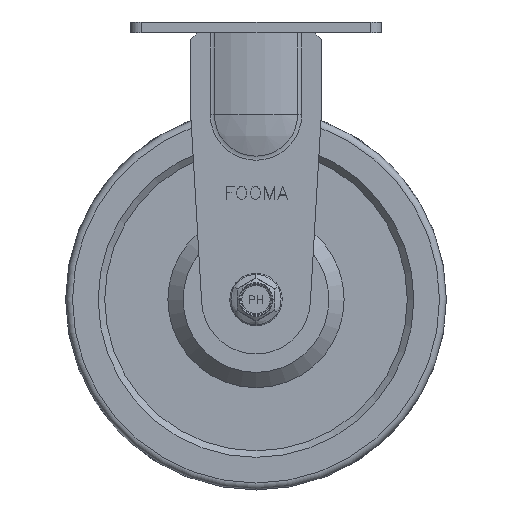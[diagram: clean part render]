
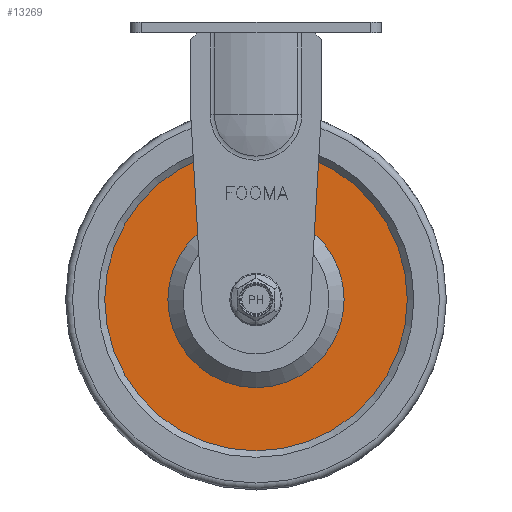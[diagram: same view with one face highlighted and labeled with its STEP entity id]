
A CAD part, front view. The second image highlights one B-rep face of the part: STEP entity #13269.
In plain terms, the highlighted planar face has unit normal (0, -1, 0).
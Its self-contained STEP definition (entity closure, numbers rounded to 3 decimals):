
#198=FACE_BOUND('',#2202,.T.);
#782=PLANE('',#14113);
#1462=FACE_OUTER_BOUND('',#2201,.T.);
#2201=EDGE_LOOP('',(#12540,#12541));
#2202=EDGE_LOOP('',(#12542,#12543));
#5656=CIRCLE('',#14111,69.5);
#5657=CIRCLE('',#14112,69.5);
#5658=CIRCLE('',#14114,40.5);
#5659=CIRCLE('',#14115,40.5);
#6904=VERTEX_POINT('',#22512);
#6905=VERTEX_POINT('',#22513);
#6906=VERTEX_POINT('',#22518);
#6907=VERTEX_POINT('',#22519);
#8783=EDGE_CURVE('',#6904,#6905,#5656,.T.);
#8784=EDGE_CURVE('',#6905,#6904,#5657,.T.);
#8786=EDGE_CURVE('',#6906,#6907,#5658,.T.);
#8787=EDGE_CURVE('',#6907,#6906,#5659,.T.);
#12540=ORIENTED_EDGE('',*,*,#8783,.T.);
#12541=ORIENTED_EDGE('',*,*,#8784,.T.);
#12542=ORIENTED_EDGE('',*,*,#8786,.F.);
#12543=ORIENTED_EDGE('',*,*,#8787,.F.);
#13269=ADVANCED_FACE('',(#1462,#198),#782,.T.);
#14111=AXIS2_PLACEMENT_3D('',#22514,#17399,#17400);
#14112=AXIS2_PLACEMENT_3D('',#22515,#17401,#17402);
#14113=AXIS2_PLACEMENT_3D('',#22517,#17404,#17405);
#14114=AXIS2_PLACEMENT_3D('',#22520,#17406,#17407);
#14115=AXIS2_PLACEMENT_3D('',#22521,#17408,#17409);
#17399=DIRECTION('center_axis',(0.,-1.,0.));
#17400=DIRECTION('ref_axis',(0.,0.,-1.));
#17401=DIRECTION('center_axis',(0.,-1.,0.));
#17402=DIRECTION('ref_axis',(0.,0.,-1.));
#17404=DIRECTION('center_axis',(0.,-1.,0.));
#17405=DIRECTION('ref_axis',(0.,0.,-1.));
#17406=DIRECTION('center_axis',(0.,-1.,0.));
#17407=DIRECTION('ref_axis',(0.,0.,-1.));
#17408=DIRECTION('center_axis',(0.,-1.,0.));
#17409=DIRECTION('ref_axis',(0.,0.,-1.));
#22512=CARTESIAN_POINT('',(0.,-17.,-192.));
#22513=CARTESIAN_POINT('',(0.,-17.,-53.));
#22514=CARTESIAN_POINT('Origin',(0.,-17.,
-122.5));
#22515=CARTESIAN_POINT('Origin',(0.,-17.,
-122.5));
#22517=CARTESIAN_POINT('Origin',(0.,-17.,
-163.));
#22518=CARTESIAN_POINT('',(0.,-17.,-163.));
#22519=CARTESIAN_POINT('',(0.,-17.,-82.));
#22520=CARTESIAN_POINT('Origin',(0.,-17.,
-122.5));
#22521=CARTESIAN_POINT('Origin',(0.,-17.,
-122.5));
